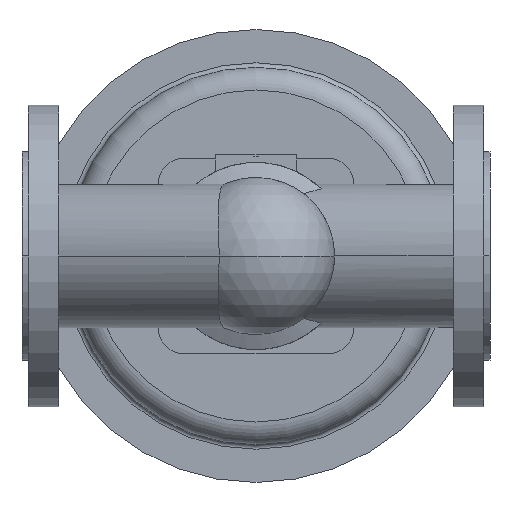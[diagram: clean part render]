
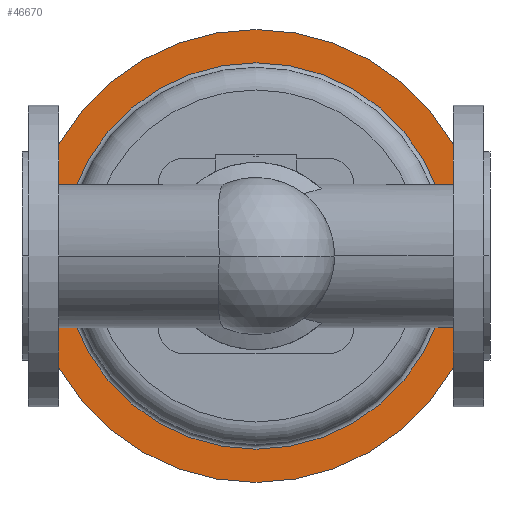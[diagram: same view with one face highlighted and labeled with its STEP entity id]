
A CAD part, front view. The second image highlights one B-rep face of the part: STEP entity #46670.
In plain terms, the highlighted planar face has unit normal (0, -1, 0).
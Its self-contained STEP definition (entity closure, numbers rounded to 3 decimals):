
#38150=CARTESIAN_POINT('',(305.,458.3,0.));
#38160=VERTEX_POINT('',#38150);
#38190=CARTESIAN_POINT('',(155.,458.3,0.));
#38200=DIRECTION('',(0.,1.,0.));
#38210=DIRECTION('',(1.,0.,0.));
#38220=AXIS2_PLACEMENT_3D('',#38190,#38200,#38210);
#38230=CIRCLE('',#38220,150.);
#38240=CARTESIAN_POINT('',(5.,458.3,0.));
#38250=VERTEX_POINT('',#38240);
#38260=EDGE_CURVE('',#38250,#38160,#38230,.T.);
#38580=CARTESIAN_POINT('',(27.,458.3,0.));
#38590=VERTEX_POINT('',#38580);
#38620=CARTESIAN_POINT('',(155.,458.3,0.));
#38630=DIRECTION('',(0.,1.,0.));
#38640=DIRECTION('',(1.,0.,0.));
#38650=AXIS2_PLACEMENT_3D('',#38620,#38630,#38640);
#38660=CIRCLE('',#38650,128.);
#38670=CARTESIAN_POINT('',(283.,458.3,0.));
#38680=VERTEX_POINT('',#38670);
#38690=EDGE_CURVE('',#38590,#38680,#38660,.T.);
#46520=CARTESIAN_POINT('',(294.,458.3,0.));
#46530=DIRECTION('',(0.,-1.,0.));
#46540=DIRECTION('',(-1.,0.,0.));
#46550=AXIS2_PLACEMENT_3D('',#46520,#46530,#46540);
#46560=PLANE('',#46550);
#46570=EDGE_CURVE('',#38160,#38250,#38230,.T.);
#46580=ORIENTED_EDGE('',*,*,#46570,.F.);
#46590=ORIENTED_EDGE('',*,*,#38260,.F.);
#46600=EDGE_LOOP('',(#46590,#46580));
#46610=FACE_OUTER_BOUND('',#46600,.T.);
#46620=EDGE_CURVE('',#38680,#38590,#38660,.T.);
#46630=ORIENTED_EDGE('',*,*,#46620,.T.);
#46640=ORIENTED_EDGE('',*,*,#38690,.T.);
#46650=EDGE_LOOP('',(#46640,#46630));
#46660=FACE_BOUND('',#46650,.T.);
#46670=ADVANCED_FACE('',(#46610,#46660),#46560,.T.);
